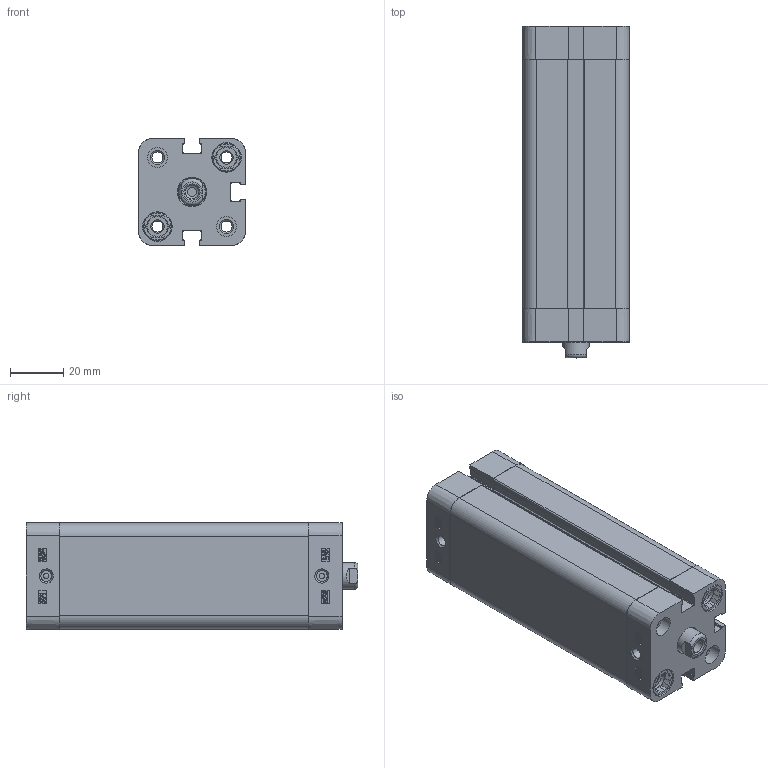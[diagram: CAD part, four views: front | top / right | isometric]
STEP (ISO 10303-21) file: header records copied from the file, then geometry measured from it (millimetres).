
FILE_DESCRIPTION((''),'2;1');
FILE_NAME('T:\Archivio Inventor\- CATALOGHI 2012\SERIE P - NUOVA\PDM\PDM025\PDM025.---.GS.F\PDM025.080.GS.F.stp','2013-01-31T08:38:51',('Administrator'),(''),'Autodesk Inventor 2012','Autodesk Inventor 2012','');
FILE_SCHEMA(('CONFIG_CONTROL_DESIGN'));
Length unit declared in the file: millimetre
Products named in the file (1): PDM025.080.GS.F
Bounding box: 40.3 x 125 x 40.3 mm (x, y, z)
Volume: 97952.3 mm3; surface area: 50627.7 mm2
Topology: 1 solids, 3 shells, 592 faces, 1547 edges, 1015 vertices
Faces by surface type: plane 311, cylinder 129, bspline 92, cone 50, torus 10
Full cylindrical faces by diameter (mm): 2 x2, 4.134 x10, 4.917 x1, 7.5 x4, 7.55 x2, 8 x8, 9 x1, 10 x1, 10.5 x1, 10.8 x4, 11.1 x4, 25 x1, 27.3 x1, 27.5 x1
Entity records: 18712 total; most frequent: CARTESIAN_POINT 4296, ORIENTED_EDGE 2882, DIRECTION 2592, EDGE_CURVE 1441, VERTEX_POINT 999, VECTOR 898, LINE 898, AXIS2_PLACEMENT_3D 847
